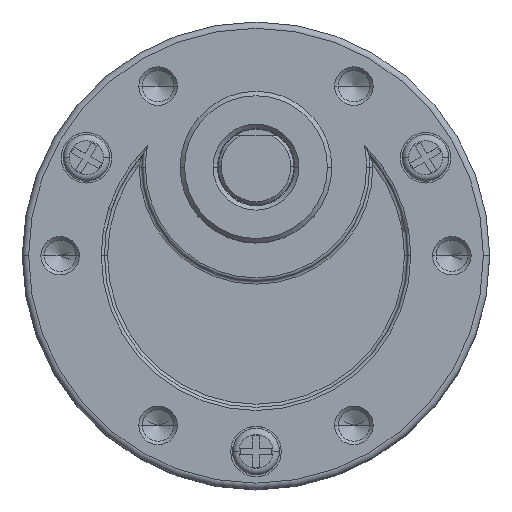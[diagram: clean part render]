
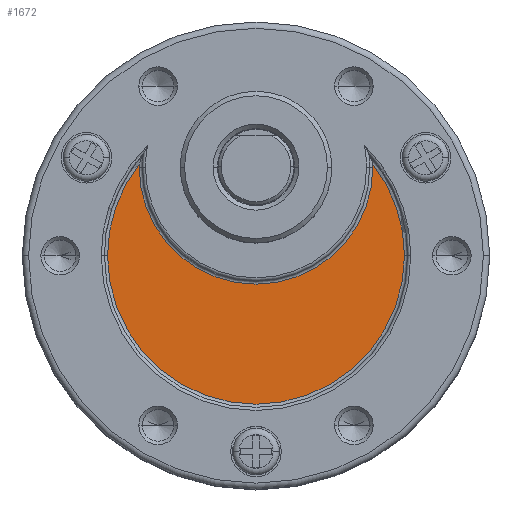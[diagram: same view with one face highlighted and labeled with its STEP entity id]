
A CAD part, top view. The second image highlights one B-rep face of the part: STEP entity #1672.
In plain terms, the highlighted planar face has unit normal (0, 0, 1).
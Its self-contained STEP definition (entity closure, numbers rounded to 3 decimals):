
#1669 = ORIENTED_EDGE ( 'NONE', *, *, #1676, .T. ) ;
#1670 = VERTEX_POINT ( 'NONE', #7195 ) ;
#1672 = ADVANCED_FACE ( 'NONE', ( #7193 ), #7184, .T. ) ;
#1675 = EDGE_LOOP ( 'NONE', ( #1678, #1680, #1681, #1669, #1686, #1702 ) ) ;
#1676 = EDGE_CURVE ( 'NONE', #1670, #5609, #7248, .T. ) ;
#1678 = ORIENTED_EDGE ( 'NONE', *, *, #5653, .T. ) ;
#1679 = EDGE_CURVE ( 'NONE', #5684, #1670, #7243, .T. ) ;
#1680 = ORIENTED_EDGE ( 'NONE', *, *, #5674, .T. ) ;
#1681 = ORIENTED_EDGE ( 'NONE', *, *, #1679, .T. ) ;
#1686 = ORIENTED_EDGE ( 'NONE', *, *, #5648, .T. ) ;
#1702 = ORIENTED_EDGE ( 'NONE', *, *, #5669, .T. ) ;
#2646 = CARTESIAN_POINT ( 'NONE',  ( -11.75, 0., -0.5 ) ) ;
#2718 = CIRCLE ( 'NONE', #2756, 11.75 ) ;
#2746 = DIRECTION ( 'NONE',  ( 1., 0., 0. ) ) ;
#2747 = DIRECTION ( 'NONE',  ( 0., 0., -1. ) ) ;
#2748 = CARTESIAN_POINT ( 'NONE',  ( 0., 7., -0.5 ) ) ;
#2749 = AXIS2_PLACEMENT_3D ( 'NONE', #2748, #2747, #2746 ) ;
#2750 = CIRCLE ( 'NONE', #2749, 9.25 ) ;
#2753 = DIRECTION ( 'NONE',  ( 1., 0., 0. ) ) ;
#2754 = DIRECTION ( 'NONE',  ( 0., 0., 1. ) ) ;
#2755 = CARTESIAN_POINT ( 'NONE',  ( 0., 0., -0.5 ) ) ;
#2756 = AXIS2_PLACEMENT_3D ( 'NONE', #2755, #2754, #2753 ) ;
#2758 = CARTESIAN_POINT ( 'NONE',  ( 9.247, 7.25, -0.5 ) ) ;
#2789 = CARTESIAN_POINT ( 'NONE',  ( 0., 0., -0.5 ) ) ;
#2808 = DIRECTION ( 'NONE',  ( 0., 0., 1. ) ) ;
#2822 = CIRCLE ( 'NONE', #2851, 11.75 ) ;
#2842 = DIRECTION ( 'NONE',  ( 1., 0., 0. ) ) ;
#2851 = AXIS2_PLACEMENT_3D ( 'NONE', #2789, #2808, #2842 ) ;
#2853 = CARTESIAN_POINT ( 'NONE',  ( 0., 7., -0.5 ) ) ;
#2854 = AXIS2_PLACEMENT_3D ( 'NONE', #2853, #2900, #2899 ) ;
#2856 = CIRCLE ( 'NONE', #2854, 9.25 ) ;
#2879 = CARTESIAN_POINT ( 'NONE',  ( 9.25, 7., -0.5 ) ) ;
#2880 = CARTESIAN_POINT ( 'NONE',  ( 11.75, 0., -0.5 ) ) ;
#2885 = CARTESIAN_POINT ( 'NONE',  ( -9.25, 7., -0.5 ) ) ;
#2899 = DIRECTION ( 'NONE',  ( 1., 0., 0. ) ) ;
#2900 = DIRECTION ( 'NONE',  ( 0., 0., -1. ) ) ;
#5609 = VERTEX_POINT ( 'NONE', #2646 ) ;
#5648 = EDGE_CURVE ( 'NONE', #5609, #5690, #2718, .T. ) ;
#5650 = VERTEX_POINT ( 'NONE', #2758 ) ;
#5653 = EDGE_CURVE ( 'NONE', #5650, #5681, #2750, .T. ) ;
#5669 = EDGE_CURVE ( 'NONE', #5690, #5650, #2822, .T. ) ;
#5674 = EDGE_CURVE ( 'NONE', #5681, #5684, #2856, .T. ) ;
#5681 = VERTEX_POINT ( 'NONE', #2879 ) ;
#5684 = VERTEX_POINT ( 'NONE', #2885 ) ;
#5690 = VERTEX_POINT ( 'NONE', #2880 ) ;
#7184 = PLANE ( 'NONE',  #7223 ) ;
#7193 = FACE_OUTER_BOUND ( 'NONE', #1675, .T. ) ;
#7195 = CARTESIAN_POINT ( 'NONE',  ( -9.247, 7.25, -0.5 ) ) ;
#7203 = CARTESIAN_POINT ( 'NONE',  ( 0., 7., -0.5 ) ) ;
#7218 = AXIS2_PLACEMENT_3D ( 'NONE', #7203, #7232, #7283 ) ;
#7220 = DIRECTION ( 'NONE',  ( 1., 0., 0. ) ) ;
#7221 = DIRECTION ( 'NONE',  ( 0., 0., 1. ) ) ;
#7222 = CARTESIAN_POINT ( 'NONE',  ( 0., 3.5, -0.5 ) ) ;
#7223 = AXIS2_PLACEMENT_3D ( 'NONE', #7222, #7221, #7220 ) ;
#7224 = CARTESIAN_POINT ( 'NONE',  ( 0., 0., -0.5 ) ) ;
#7232 = DIRECTION ( 'NONE',  ( 0., 0., -1. ) ) ;
#7243 = CIRCLE ( 'NONE', #7218, 9.25 ) ;
#7245 = DIRECTION ( 'NONE',  ( 1., 0., 0. ) ) ;
#7246 = DIRECTION ( 'NONE',  ( 0., 0., 1. ) ) ;
#7247 = AXIS2_PLACEMENT_3D ( 'NONE', #7224, #7246, #7245 ) ;
#7248 = CIRCLE ( 'NONE', #7247, 11.75 ) ;
#7283 = DIRECTION ( 'NONE',  ( 1., 0., 0. ) ) ;
